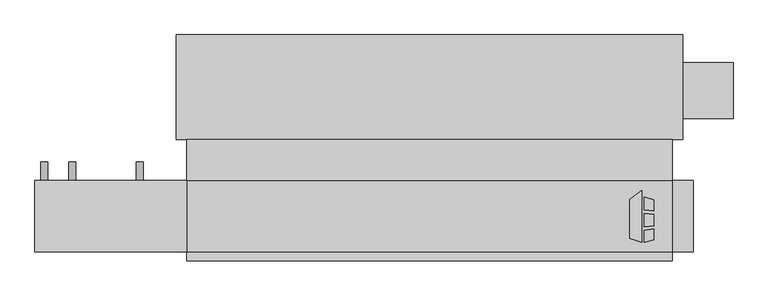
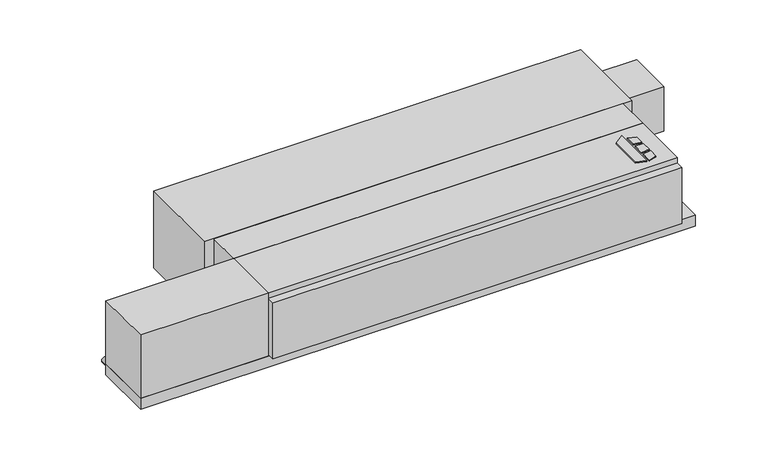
"""IFC4 building model written with IfcOpenShell, lengths in millimetres: proxy geometry, Concealed_Horizontal_Fan_Coil_Unit_With_Plenum_-_CPF_-_IEC_-_4-Pipe_LH : Size 10 - 115v/60Hz/1Ph - 4/1 Coil."""

import ifcopenshell
import ifcopenshell.guid

model = None  # the IFC model being written
_history = None  # IfcOwnerHistory: only IFC2X3 demands one
_inside = {}  # id of a spatial element -> (the spatial element, [elements in it])
_under = {}  # id of a project, library or spatial element -> (it, [spatial elements below it])
_declared = {}  # id of a project -> (the project, [libraries it declares])
_typed = {}  # id of a type object -> (the type object, [elements of that type])
_made_of = {}  # id of a material, layer set ... -> (it, [elements and type objects made of it])


def new_model(schema):
    """Start an empty IFC model of exactly this schema.

    Asked for "IFC4X3", IfcOpenShell would pick the latest addendum, in which some entities
    have other attributes; the version numbers below select the first issue.
    IFC2X3 requires an IfcOwnerHistory on every rooted entity: one is made here for all.
    """
    global model, _history
    if schema == "IFC4X3":
        model = ifcopenshell.file(schema_version=(4, 3, 0, 0))
    else:
        model = ifcopenshell.file(schema=schema)
    _inside.clear()
    _under.clear()
    _declared.clear()
    _typed.clear()
    _made_of.clear()
    _history = None
    if model.schema == "IFC2X3":
        org = make("IfcOrganization", Name="unknown")
        user = make(
            "IfcPersonAndOrganization",
            ThePerson=make("IfcPerson", FamilyName="unknown"),
            TheOrganization=org,
        )
        app = make(
            "IfcApplication",
            ApplicationDeveloper=org,
            Version="unknown",
            ApplicationFullName="unknown",
            ApplicationIdentifier="unknown",
        )
        _history = make(
            "IfcOwnerHistory",
            OwningUser=user,
            OwningApplication=app,
            ChangeAction="ADDED",
            CreationDate=0,
        )
    return model


def make(cls, **values):
    """One entity of the class cls with the attributes given. An attribute that is None is left unset."""
    return model.create_entity(
        cls, **{name: value for name, value in values.items() if value is not None}
    )


def rooted(cls, **values):
    """An entity with a GlobalId (a new one), such as an element, a storey or a relation."""
    return make(cls, GlobalId=ifcopenshell.guid.new(), OwnerHistory=_history, **values)


def si_unit(unit_type, name, prefix=None):
    """IfcSIUnit, for example si_unit("LENGTHUNIT", "METRE", prefix="MILLI")."""
    return make("IfcSIUnit", UnitType=unit_type, Prefix=prefix, Name=name)


def assignment(units):
    """IfcUnitAssignment: the units of a project."""
    return None if units is None else make("IfcUnitAssignment", Units=units)


def point(xyz):
    """IfcCartesianPoint."""
    return None if xyz is None else make("IfcCartesianPoint", Coordinates=xyz)


def direction(xyz):
    """IfcDirection."""
    return None if xyz is None else make("IfcDirection", DirectionRatios=xyz)


def frame(location, z_axis=None, x_axis=None):
    """IfcAxis2Placement3D, a coordinate frame: its origin and axes. An axis left out is left unset."""
    return make(
        "IfcAxis2Placement3D",
        Location=point(location),
        Axis=direction(z_axis),
        RefDirection=direction(x_axis),
    )


def frame_2d(location, x_axis=None):
    """IfcAxis2Placement2D, a coordinate frame in the plane: its origin and x axis."""
    return make(
        "IfcAxis2Placement2D", Location=point(location), RefDirection=direction(x_axis)
    )


def origin():
    """The frame at (0, 0, 0) with its axes left unset."""
    return frame((0.0, 0.0, 0.0))


def origin_with_axes():
    """The frame at (0, 0, 0) with the z axis (0, 0, 1) and the x axis (1, 0, 0) written out."""
    return frame((0.0, 0.0, 0.0), z_axis=(0.0, 0.0, 1.0), x_axis=(1.0, 0.0, 0.0))


def place(relative_to, where):
    """IfcLocalPlacement: puts the frame where relative to a parent placement (None: the world)."""
    return make(
        "IfcLocalPlacement", PlacementRelTo=relative_to, RelativePlacement=where
    )


def context(
    kind, dimensions, precision=None, world=None, true_north=None, identifier=None
):
    """IfcGeometricRepresentationContext, for example the 3D "Model" context."""
    return make(
        "IfcGeometricRepresentationContext",
        ContextIdentifier=identifier,
        ContextType=kind,
        CoordinateSpaceDimension=dimensions,
        Precision=precision,
        WorldCoordinateSystem=world,
        TrueNorth=true_north,
    )


def project(units=None, contexts=None):
    """IfcProject with its units and contexts."""
    return rooted(
        "IfcProject",
        Name="project",
        RepresentationContexts=contexts,
        UnitsInContext=assignment(units),
    )


def spatial(cls, under=None, at=None, **own):
    """A site, building, storey or space (cls), placed at a placement, below another one or the project."""
    s = rooted(cls, ObjectPlacement=at, **own)
    if under is not None:
        _under.setdefault(under.id(), (under, []))[1].append(s)
    return s


def polyline(points):
    """IfcPolyline through the points."""
    return make("IfcPolyline", Points=[point(p) for p in points])


def circle_curve(where, radius):
    """IfcCircle in the frame where."""
    return make("IfcCircle", Position=where, Radius=radius)


def trimmed(basis, trim1, trim2, sense, master):
    """IfcTrimmedCurve: the piece of a basis curve between two trims."""
    return make(
        "IfcTrimmedCurve",
        BasisCurve=basis,
        Trim1=trim1,
        Trim2=trim2,
        SenseAgreement=sense,
        MasterRepresentation=master,
    )


def segment(curve, same_sense, transition):
    """IfcCompositeCurveSegment."""
    return make(
        "IfcCompositeCurveSegment",
        Transition=transition,
        SameSense=same_sense,
        ParentCurve=curve,
    )


def composite_curve(segments, self_intersect=None):
    """IfcCompositeCurve: segments joined end to end."""
    return make("IfcCompositeCurve", Segments=segments, SelfIntersect=self_intersect)


def outline(outer, holes=None, kind="AREA"):
    """IfcArbitraryClosedProfileDef: a profile drawn as a closed curve; with holes, ...WithVoids."""
    if holes is None:
        return make("IfcArbitraryClosedProfileDef", ProfileType=kind, OuterCurve=outer)
    return make(
        "IfcArbitraryProfileDefWithVoids",
        ProfileType=kind,
        OuterCurve=outer,
        InnerCurves=holes,
    )


def extrude(swept, where, along, depth):
    """IfcExtrudedAreaSolid: the profile swept, set in the frame where, extruded along a direction by depth."""
    return make(
        "IfcExtrudedAreaSolid",
        SweptArea=swept,
        Position=where,
        ExtrudedDirection=direction(along),
        Depth=depth,
    )


def shape(context_of_items, identifier, shape_type, items):
    """IfcShapeRepresentation: the items that make up one representation, for example the "Body"."""
    return make(
        "IfcShapeRepresentation",
        ContextOfItems=context_of_items,
        RepresentationIdentifier=identifier,
        RepresentationType=shape_type,
        Items=items,
    )


def source(mapping_origin, context_of_items, identifier, shape_type, items):
    """IfcRepresentationMap: a shape defined once, which mapped items show again and again."""
    return make(
        "IfcRepresentationMap",
        MappingOrigin=mapping_origin,
        MappedRepresentation=shape(context_of_items, identifier, shape_type, items),
    )


def transform(
    local_origin,
    x_axis=None,
    y_axis=None,
    z_axis=None,
    scale=None,
    scale2=None,
    scale3=None,
    uniform=True,
):
    """IfcCartesianTransformationOperator3D, or its non-uniform kind. x_axis, y_axis, z_axis: its Axis1, 2, 3."""
    if uniform:
        return make(
            "IfcCartesianTransformationOperator3D",
            Axis1=direction(x_axis),
            Axis2=direction(y_axis),
            LocalOrigin=point(local_origin),
            Scale=scale,
            Axis3=direction(z_axis),
        )
    return make(
        "IfcCartesianTransformationOperator3DnonUniform",
        Axis1=direction(x_axis),
        Axis2=direction(y_axis),
        LocalOrigin=point(local_origin),
        Scale=scale,
        Axis3=direction(z_axis),
        Scale2=scale2,
        Scale3=scale3,
    )


def mapped(mapping_source, mapping_target):
    """IfcMappedItem: shows the shape of a source again, moved by a transform."""
    return make(
        "IfcMappedItem", MappingSource=mapping_source, MappingTarget=mapping_target
    )


def made_of(thing, what):
    """Note that an element or type object is made of a material, layer set ...; save() writes the relation."""
    if what is not None:
        _made_of.setdefault(what.id(), (what, []))[1].append(thing)
    return thing


def element(
    cls,
    number,
    at=None,
    inside=None,
    cuts=None,
    type_object=None,
    material=None,
    context=None,
    identifier="Body",
    shape_type=None,
    held_by="IfcProductDefinitionShape",
    body=None,
    shapes=None,
    **own,
):
    """One element of the class cls, such as IfcWall. Its Tag is "e" and its number.

    at: its placement. inside: the storey or other place that contains it. cuts: it is an
    opening in that element (IfcRelVoidsElement). A single representation is given by context,
    identifier, shape_type and body (its items); several are given by shapes. held_by: the class
    of the entity that holds the representations. save() writes the other relations.
    """
    e = rooted(cls, Tag="e%d" % number, ObjectPlacement=at, **own)
    if body is not None:
        shapes = [shape(context, identifier, shape_type, body)]
    if shapes is not None:
        e.Representation = make(held_by, Representations=shapes)
    if inside is not None:
        _inside.setdefault(inside.id(), (inside, []))[1].append(e)
    if cuts is not None:
        rooted(
            "IfcRelVoidsElement", RelatingBuildingElement=cuts, RelatedOpeningElement=e
        )
    if type_object is not None:
        _typed.setdefault(type_object.id(), (type_object, []))[1].append(e)
    return made_of(e, material)


def aggregate(whole, parts):
    """IfcRelAggregates: a whole, such as a stair, and the parts it consists of."""
    return rooted("IfcRelAggregates", RelatingObject=whole, RelatedObjects=parts)


def save(model, path):
    """Write the relations noted so far, then the file.

    IfcRelAggregates (storeys below a building ...), IfcRelContainedInSpatialStructure (elements
    in a storey), IfcRelDefinesByType, IfcRelAssociatesMaterial and IfcRelDeclares: one each for
    every whole, place, type object, material and project.
    """
    for whole, parts in _under.values():
        aggregate(whole, parts)
    for where, things in _inside.values():
        rooted(
            "IfcRelContainedInSpatialStructure",
            RelatedElements=things,
            RelatingStructure=where,
        )
    for kind, things in _typed.values():
        rooted("IfcRelDefinesByType", RelatedObjects=things, RelatingType=kind)
    for what, things in _made_of.values():
        rooted("IfcRelAssociatesMaterial", RelatedObjects=things, RelatingMaterial=what)
    for by, libraries in _declared.values():
        rooted("IfcRelDeclares", RelatingContext=by, RelatedDefinitions=libraries)
    model.write(path)


def mechanical_equipment_07888fbe(model_context):
    return source(origin(), model_context, "Body", "SweptSolid", [
        extrude(outline(polyline([(696.6019761, -193.0453476), (729.1602728, -167.6080184), (729.1602728, -309.5625), (696.6019761, -299.3429201), (696.6019761, -193.0453476)])), origin_with_axes(), (0.0, 0.0, 1.0), 3.175),
        extrude(outline(polyline([(735.9186058, -220.917352), (735.9186058, -186.4374379), (762.0, -194.6240115), (762.0, -224.1197446), (735.9186058, -220.917352)])), origin_with_axes(), (0.0, 0.0, 1.0), 3.175),
        extrude(outline(polyline([(762.0, -302.5740115), (735.9186058, -309.5625), (735.9186058, -276.3411996), (762.0, -272.7993564), (762.0, -302.5740115)])), origin_with_axes(), (0.0, 0.0, 1.0), 3.175),
        extrude(outline(polyline([(762.0, -233.2013277), (762.0, -264.451483), (735.9186058, -267.192748), (735.9186058, -231.3350378), (762.0, -233.2013277)])), origin_with_axes(), (0.0, 0.0, 1.0), 3.175),
        extrude(outline(polyline([(-508.0, -30.1625), (812.8, -30.1625), (812.8, -141.2875), (-508.0, -141.2875), (-508.0, -30.1625)])), frame((0.0, 0.0, -215.9), z_axis=(0.0, 0.0, 1.0), x_axis=(1.0, 0.0, 0.0)), (0.0, 0.0, 1.0), 215.9),
        extrude(outline(polyline([(-920.75, -334.9625), (-920.75, -141.2875), (-508.0, -141.2875), (-508.0, -334.9625), (-920.75, -334.9625)])), frame((0.0, 0.0, -215.9), z_axis=(0.0, 0.0, 1.0), x_axis=(1.0, 0.0, 0.0)), (0.0, 0.0, 1.0), 215.9),
        extrude(outline(polyline([(869.95, -141.2875), (869.95, -334.9625), (-920.75, -334.9625), (-920.75, -141.2875), (869.95, -141.2875)])), frame((0.0, 0.0, -254.0), z_axis=(0.0, 0.0, 1.0), x_axis=(1.0, 0.0, 0.0)), (0.0, 0.0, 1.0), 38.1),
        extrude(outline(composite_curve([segment(trimmed(circle_curve(frame_2d((-158.75, -819.15)), 9.525), [point((-158.75, -809.625))], [point((-158.75, -828.675))], False, "CARTESIAN"), True, "CONTINUOUS"), segment(trimmed(circle_curve(frame_2d((-158.75, -819.15)), 9.525), [point((-158.75, -828.675))], [point((-158.75, -809.625))], False, "CARTESIAN"), True, "CONTINUOUS")], self_intersect=False)), frame((0.0, -141.2875, 0.0), z_axis=(0.0, 1.0, 0.0), x_axis=(0.0, 0.0, 1.0)), (0.0, 0.0, 1.0), 50.8),
        extrude(outline(composite_curve([segment(trimmed(circle_curve(frame_2d((-69.85, -819.15)), 9.525), [point((-69.85, -809.625))], [point((-69.85, -828.675))], False, "CARTESIAN"), True, "CONTINUOUS"), segment(trimmed(circle_curve(frame_2d((-69.85, -819.15)), 9.525), [point((-69.85, -828.675))], [point((-69.85, -809.625))], False, "CARTESIAN"), True, "CONTINUOUS")], self_intersect=False)), frame((0.0, -141.2875, 0.0), z_axis=(0.0, 1.0, 0.0), x_axis=(0.0, 0.0, 1.0)), (0.0, 0.0, 1.0), 50.8),
        extrude(outline(composite_curve([segment(trimmed(circle_curve(frame_2d((-69.85, -635.0)), 9.525), [point((-69.85, -625.475))], [point((-69.85, -644.525))], False, "CARTESIAN"), True, "CONTINUOUS"), segment(trimmed(circle_curve(frame_2d((-69.85, -635.0)), 9.525), [point((-69.85, -644.525))], [point((-69.85, -625.475))], False, "CARTESIAN"), True, "CONTINUOUS")], self_intersect=False)), frame((0.0, -141.2875, 0.0), z_axis=(0.0, 1.0, 0.0), x_axis=(0.0, 0.0, 1.0)), (0.0, 0.0, 1.0), 50.8),
        extrude(outline(composite_curve([segment(trimmed(circle_curve(frame_2d((-158.75, -635.0)), 9.525), [point((-158.75, -625.475))], [point((-158.75, -644.525))], False, "CARTESIAN"), True, "CONTINUOUS"), segment(trimmed(circle_curve(frame_2d((-158.75, -635.0)), 9.525), [point((-158.75, -644.525))], [point((-158.75, -625.475))], False, "CARTESIAN"), True, "CONTINUOUS")], self_intersect=False)), frame((0.0, -141.2875, 0.0), z_axis=(0.0, 1.0, 0.0), x_axis=(0.0, 0.0, 1.0)), (0.0, 0.0, 1.0), 50.8),
        extrude(outline(composite_curve([segment(trimmed(circle_curve(frame_2d((-241.3, -895.35)), 9.525), [point((-241.3, -904.875))], [point((-241.3, -885.825))], False, "CARTESIAN"), True, "CONTINUOUS"), segment(trimmed(circle_curve(frame_2d((-241.3, -895.35)), 9.525), [point((-241.3, -885.825))], [point((-241.3, -904.875))], False, "CARTESIAN"), True, "CONTINUOUS")], self_intersect=False)), frame((0.0, -141.2875, 0.0), z_axis=(0.0, 1.0, 0.0), x_axis=(0.0, 0.0, 1.0)), (0.0, 0.0, 1.0), 50.8),
        extrude(outline(polyline([(812.8, -334.9625), (812.8, -360.3625), (-508.0, -360.3625), (-508.0, -334.9625), (812.8, -334.9625)])), frame((0.0, 0.0, -209.55), z_axis=(0.0, 0.0, 1.0), x_axis=(1.0, 0.0, 0.0)), (0.0, 0.0, 1.0), 190.5),
        extrude(outline(polyline([(812.8, -334.9625), (-508.0, -334.9625), (-508.0, -141.2875), (812.8, -141.2875), (812.8, -334.9625)])), frame((0.0, 0.0, -215.9), z_axis=(0.0, 0.0, 1.0), x_axis=(1.0, 0.0, 0.0)), (0.0, 0.0, 1.0), 215.9),
        extrude(outline(polyline([(841.375, 26.9875), (841.375, 179.3875), (977.9, 179.3875), (977.9, 26.9875), (841.375, 26.9875)])), frame((0.0, 0.0, -187.325), z_axis=(0.0, 0.0, 1.0), x_axis=(1.0, 0.0, 0.0)), (0.0, 0.0, 1.0), 152.4),
        extrude(outline(polyline([(-536.575, 255.5875), (841.375, 255.5875), (841.375, -30.1625), (-536.575, -30.1625), (-536.575, 255.5875)])), frame((0.0, 0.0, -263.525), z_axis=(0.0, 0.0, 1.0), x_axis=(1.0, 0.0, 0.0)), (0.0, 0.0, 1.0), 263.525),
    ])


if __name__ == "__main__":
    model = new_model("IFC4")
    model_context = context("Model", 3, world=origin())
    ifc_project = project(units=[si_unit("LENGTHUNIT", "METRE", prefix="MILLI")], contexts=[model_context])
    site = spatial("IfcSite", under=ifc_project)
    building = spatial("IfcBuilding", under=site)
    placement = place(None, origin())
    mechanical_equipment_shape = mechanical_equipment_07888fbe(model_context)
    element("IfcBuildingElementProxy", 1, Name="Concealed_Horizontal_Fan_Coil_Unit_With_Plenum_-_CPF_-_IEC_-_4-Pipe_LH : Size 10 - 115v/60Hz/1Ph - 4/1 Coil", ObjectType="Concealed_Horizontal_Fan_Coil_Unit_With_Plenum_-_CPF_-_IEC_-_4-Pipe_LH : Size 10 - 115v/60Hz/1Ph - 4/1 Coil", at=placement, inside=building, context=model_context, shape_type="MappedRepresentation", body=[
        mapped(mechanical_equipment_shape, transform((0.0, 0.0, 0.0), x_axis=(1.0, 0.0, 0.0), y_axis=(0.0, 1.0, 0.0), z_axis=(0.0, 0.0, 1.0))),
    ])
    save(model, "model.ifc")
